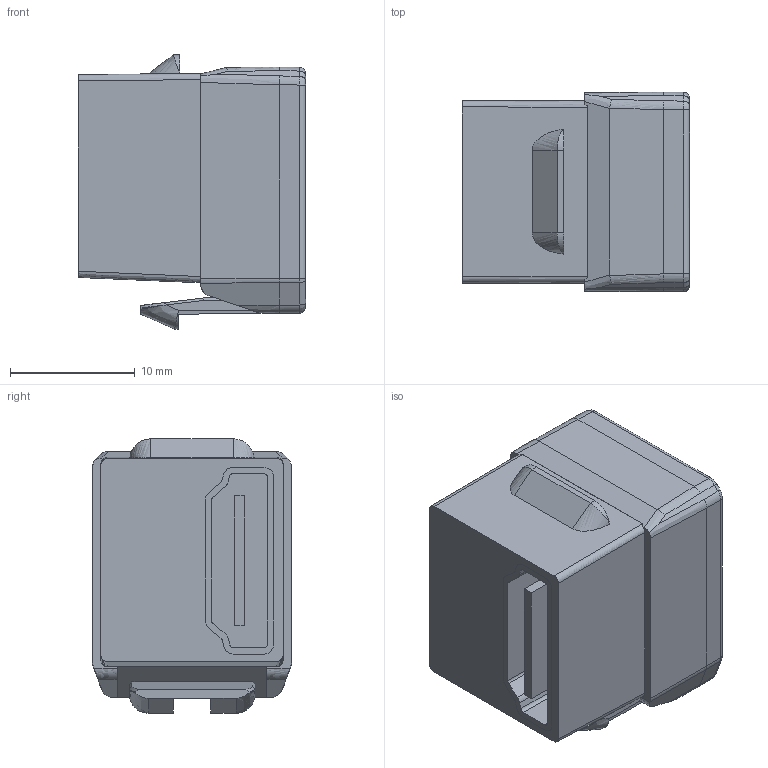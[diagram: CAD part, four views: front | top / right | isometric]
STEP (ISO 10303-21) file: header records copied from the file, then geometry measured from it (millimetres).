
FILE_DESCRIPTION( ('This file contains a STEP AP42 implementation' ,'as created by ZW3D STEP Interface translator.') ,'2;1' );
FILE_NAME( 'TB-025_210HD06G2xx_SD.stp' ,'26 330.134526', (''), ('ZWCAD Software Co.'), 'Version 1.0', 'ZW3D to STEP translator', '' );
FILE_SCHEMA(('AUTOMOTIVE_DESIGN'));
Length unit declared in the file: millimetre
Products named in the file (2): 0; TB-025_210HD06G2xx_SD
Bounding box: 18.2 x 15.99 x 21.99 mm (x, y, z)
Volume: 4248.1 mm3; surface area: 2758.8 mm2
Topology: 1 solids, 1 shells, 179 faces, 486 edges, 314 vertices
Faces by surface type: bspline 179
Entity records: 9035 total; most frequent: CARTESIAN_POINT 5916, ORIENTED_EDGE 968, EDGE_CURVE 484, B_SPLINE_CURVE_WITH_KNOTS 482, VERTEX_POINT 314, EDGE_LOOP 186, FACE_OUTER_BOUND 179, ADVANCED_FACE 179
